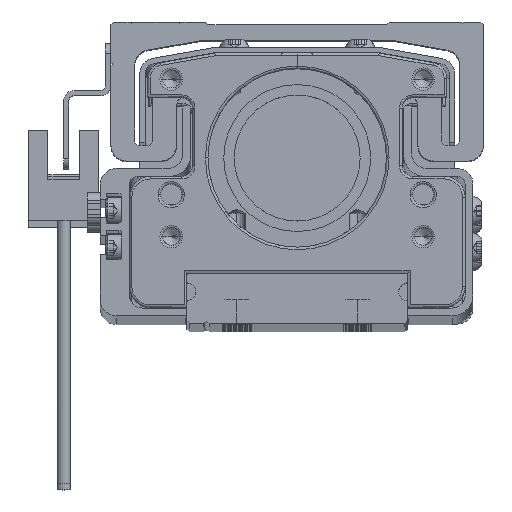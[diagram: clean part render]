
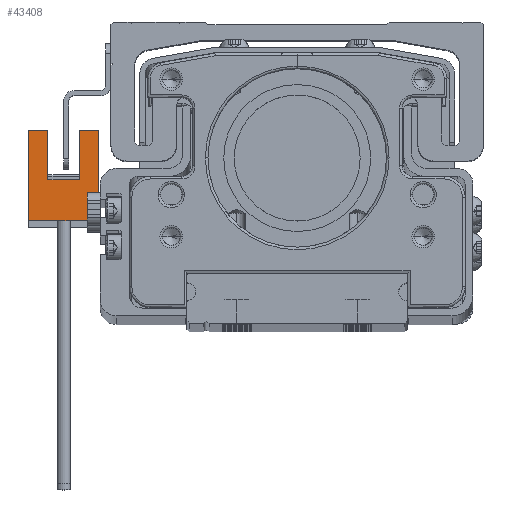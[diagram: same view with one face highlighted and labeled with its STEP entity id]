
A CAD part, top view. The second image highlights one B-rep face of the part: STEP entity #43408.
In plain terms, the highlighted planar face has unit normal (0, 0, 1) as drawn and (-1, 0, 0) by its records, which use the part's own axes.
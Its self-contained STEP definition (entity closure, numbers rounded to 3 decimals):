
#321 = EDGE_CURVE ( 'NONE', #5001, #4839, #23824, .T. ) ;
#507 = VERTEX_POINT ( 'NONE', #16978 ) ;
#1357 = LINE ( 'NONE', #4308, #34122 ) ;
#2268 = DIRECTION ( 'NONE',  ( -1., 0., 0. ) ) ;
#2284 = DIRECTION ( 'NONE',  ( 0., 0., 1. ) ) ;
#2617 = PLANE ( 'NONE',  #32663 ) ;
#3080 = CARTESIAN_POINT ( 'NONE',  ( -3., 2., 9.7 ) ) ;
#4045 = CARTESIAN_POINT ( 'NONE',  ( -3., 2., -3.7 ) ) ;
#4260 = DIRECTION ( 'NONE',  ( 0., -1., 0. ) ) ;
#4285 = VECTOR ( 'NONE', #36459, 1000. ) ;
#4297 = VECTOR ( 'NONE', #11476, 1000. ) ;
#4308 = CARTESIAN_POINT ( 'NONE',  ( -3., 2., -3.7 ) ) ;
#4839 = VERTEX_POINT ( 'NONE', #43701 ) ;
#4907 = CARTESIAN_POINT ( 'NONE',  ( -3., -9.9, 7.5 ) ) ;
#5001 = VERTEX_POINT ( 'NONE', #39546 ) ;
#5706 = LINE ( 'NONE', #44996, #4285 ) ;
#6194 = LINE ( 'NONE', #7955, #41500 ) ;
#7899 = DIRECTION ( 'NONE',  ( 0., 0., -1. ) ) ;
#7955 = CARTESIAN_POINT ( 'NONE',  ( -3., 2., -3.7 ) ) ;
#9146 = EDGE_CURVE ( 'NONE', #40121, #13260, #6194, .T. ) ;
#9541 = ORIENTED_EDGE ( 'NONE', *, *, #37670, .T. ) ;
#10659 = ORIENTED_EDGE ( 'NONE', *, *, #16493, .T. ) ;
#11420 = CARTESIAN_POINT ( 'NONE',  ( -3., 2., 6. ) ) ;
#11476 = DIRECTION ( 'NONE',  ( 0., -1., 0. ) ) ;
#12075 = VECTOR ( 'NONE', #52701, 1000. ) ;
#13021 = CARTESIAN_POINT ( 'NONE',  ( -3., 2., -3.7 ) ) ;
#13260 = VERTEX_POINT ( 'NONE', #24725 ) ;
#14001 = VERTEX_POINT ( 'NONE', #4907 ) ;
#14103 = DIRECTION ( 'NONE',  ( 0., 0., -1. ) ) ;
#15876 = VERTEX_POINT ( 'NONE', #24978 ) ;
#16493 = EDGE_CURVE ( 'NONE', #28993, #5001, #1357, .T. ) ;
#16978 = CARTESIAN_POINT ( 'NONE',  ( -3., -7.4, 0. ) ) ;
#17997 = LINE ( 'NONE', #55459, #19374 ) ;
#18370 = LINE ( 'NONE', #23348, #41759 ) ;
#19209 = CARTESIAN_POINT ( 'NONE',  ( -3., 2., -3.7 ) ) ;
#19356 = EDGE_CURVE ( 'NONE', #26883, #40121, #17997, .T. ) ;
#19374 = VECTOR ( 'NONE', #55720, 1000. ) ;
#20229 = ORIENTED_EDGE ( 'NONE', *, *, #24196, .T. ) ;
#23287 = DIRECTION ( 'NONE',  ( 0., 0., 1. ) ) ;
#23348 = CARTESIAN_POINT ( 'NONE',  ( -3., -9.9, -3.7 ) ) ;
#23824 = LINE ( 'NONE', #54093, #12075 ) ;
#24001 = EDGE_LOOP ( 'NONE', ( #26625, #30904, #24241, #38245, #35683, #9541, #39589, #29688, #20229, #10659 ) ) ;
#24196 = EDGE_CURVE ( 'NONE', #15876, #28993, #53140, .T. ) ;
#24241 = ORIENTED_EDGE ( 'NONE', *, *, #37419, .T. ) ;
#24725 = CARTESIAN_POINT ( 'NONE',  ( -3., 2., 6. ) ) ;
#24978 = CARTESIAN_POINT ( 'NONE',  ( -3., 2., 0. ) ) ;
#25945 = VERTEX_POINT ( 'NONE', #42198 ) ;
#26625 = ORIENTED_EDGE ( 'NONE', *, *, #321, .T. ) ;
#26883 = VERTEX_POINT ( 'NONE', #46359 ) ;
#26943 = VECTOR ( 'NONE', #42166, 1000. ) ;
#27131 = LINE ( 'NONE', #35367, #37503 ) ;
#28993 = VERTEX_POINT ( 'NONE', #13021 ) ;
#29688 = ORIENTED_EDGE ( 'NONE', *, *, #55082, .T. ) ;
#30904 = ORIENTED_EDGE ( 'NONE', *, *, #39025, .T. ) ;
#32663 = AXIS2_PLACEMENT_3D ( 'NONE', #4045, #2268, #2284 ) ;
#34122 = VECTOR ( 'NONE', #4260, 1000. ) ;
#35052 = DIRECTION ( 'NONE',  ( 0., 1., 0. ) ) ;
#35367 = CARTESIAN_POINT ( 'NONE',  ( -3., -16.1, 7.5 ) ) ;
#35683 = ORIENTED_EDGE ( 'NONE', *, *, #9146, .T. ) ;
#36459 = DIRECTION ( 'NONE',  ( 0., 1., 0. ) ) ;
#37419 = EDGE_CURVE ( 'NONE', #14001, #26883, #18370, .T. ) ;
#37503 = VECTOR ( 'NONE', #35052, 1000. ) ;
#37670 = EDGE_CURVE ( 'NONE', #13260, #25945, #49658, .T. ) ;
#38245 = ORIENTED_EDGE ( 'NONE', *, *, #19356, .T. ) ;
#39025 = EDGE_CURVE ( 'NONE', #4839, #14001, #27131, .T. ) ;
#39546 = CARTESIAN_POINT ( 'NONE',  ( -3., -15.2, -3.7 ) ) ;
#39589 = ORIENTED_EDGE ( 'NONE', *, *, #43974, .T. ) ;
#40121 = VERTEX_POINT ( 'NONE', #3080 ) ;
#41500 = VECTOR ( 'NONE', #7899, 1000. ) ;
#41759 = VECTOR ( 'NONE', #23287, 1000. ) ;
#41885 = VECTOR ( 'NONE', #14103, 1000. ) ;
#42166 = DIRECTION ( 'NONE',  ( 0., 0., -1. ) ) ;
#42198 = CARTESIAN_POINT ( 'NONE',  ( -3., -7.4, 6. ) ) ;
#42353 = CARTESIAN_POINT ( 'NONE',  ( -3., -7.4, -3.7 ) ) ;
#43408 = ADVANCED_FACE ( 'NONE', ( #52759 ), #2617, .T. ) ;
#43701 = CARTESIAN_POINT ( 'NONE',  ( -3., -15.2, 7.5 ) ) ;
#43974 = EDGE_CURVE ( 'NONE', #25945, #507, #50024, .T. ) ;
#44996 = CARTESIAN_POINT ( 'NONE',  ( -3., 2., 0. ) ) ;
#46359 = CARTESIAN_POINT ( 'NONE',  ( -3., -9.9, 9.7 ) ) ;
#49658 = LINE ( 'NONE', #11420, #4297 ) ;
#50024 = LINE ( 'NONE', #42353, #26943 ) ;
#52701 = DIRECTION ( 'NONE',  ( 0., 0., 1. ) ) ;
#52759 = FACE_OUTER_BOUND ( 'NONE', #24001, .T. ) ;
#53140 = LINE ( 'NONE', #19209, #41885 ) ;
#54093 = CARTESIAN_POINT ( 'NONE',  ( -3., -15.2, -3.7 ) ) ;
#55082 = EDGE_CURVE ( 'NONE', #507, #15876, #5706, .T. ) ;
#55459 = CARTESIAN_POINT ( 'NONE',  ( -3., 2., 9.7 ) ) ;
#55720 = DIRECTION ( 'NONE',  ( 0., 1., 0. ) ) ;
